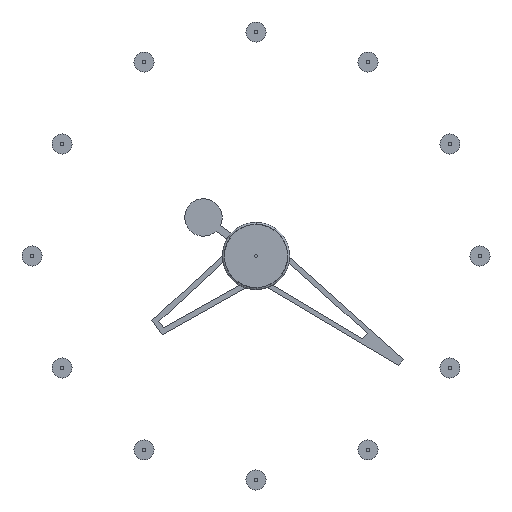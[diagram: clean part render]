
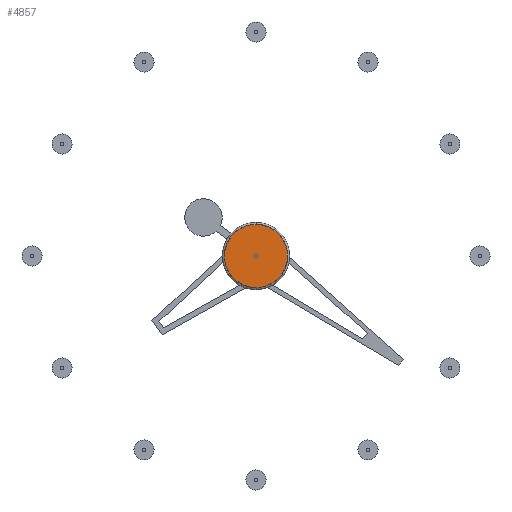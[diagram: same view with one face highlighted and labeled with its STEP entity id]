
A CAD part, front view. The second image highlights one B-rep face of the part: STEP entity #4857.
In plain terms, the highlighted planar face has unit normal (0, -1, 0).
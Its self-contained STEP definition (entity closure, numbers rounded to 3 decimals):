
#76 = ORIENTED_EDGE ( 'NONE', *, *, #5353, .T. ) ;
#116 = CARTESIAN_POINT ( 'NONE',  ( 47.5, -24., 0. ) ) ;
#131 = AXIS2_PLACEMENT_3D ( 'NONE', #3760, #3231, #224 ) ;
#149 = ORIENTED_EDGE ( 'NONE', *, *, #380, .T. ) ;
#224 = DIRECTION ( 'NONE',  ( 0., 0., 1. ) ) ;
#380 = EDGE_CURVE ( 'NONE', #2608, #2770, #3913, .T. ) ;
#650 = DIRECTION ( 'NONE',  ( 0., -1., 0. ) ) ;
#805 = EDGE_CURVE ( 'NONE', #6078, #4408, #911, .T. ) ;
#865 = DIRECTION ( 'NONE',  ( 0., 0., 1. ) ) ;
#911 = CIRCLE ( 'NONE', #3281, 2. ) ;
#1035 = CARTESIAN_POINT ( 'NONE',  ( 47.5, -24., 47.25 ) ) ;
#1050 = CIRCLE ( 'NONE', #1378, 2. ) ;
#1153 = DIRECTION ( 'NONE',  ( 0., 0., 1. ) ) ;
#1254 = AXIS2_PLACEMENT_3D ( 'NONE', #5879, #5402, #5376 ) ;
#1351 = PLANE ( 'NONE',  #1254 ) ;
#1378 = AXIS2_PLACEMENT_3D ( 'NONE', #5943, #3874, #865 ) ;
#1430 = EDGE_CURVE ( 'NONE', #2770, #2608, #2805, .T. ) ;
#1689 = DIRECTION ( 'NONE',  ( 0., 0., 1. ) ) ;
#2184 = DIRECTION ( 'NONE',  ( 0., 1., 0. ) ) ;
#2548 = FACE_BOUND ( 'NONE', #4875, .T. ) ;
#2608 = VERTEX_POINT ( 'NONE', #1035 ) ;
#2616 = EDGE_LOOP ( 'NONE', ( #149, #4719 ) ) ;
#2770 = VERTEX_POINT ( 'NONE', #4200 ) ;
#2805 = CIRCLE ( 'NONE', #131, 47.25 ) ;
#3000 = CARTESIAN_POINT ( 'NONE',  ( 47.5, -24., 2. ) ) ;
#3231 = DIRECTION ( 'NONE',  ( 0., -1., 0. ) ) ;
#3264 = ORIENTED_EDGE ( 'NONE', *, *, #805, .T. ) ;
#3281 = AXIS2_PLACEMENT_3D ( 'NONE', #6176, #2184, #1689 ) ;
#3760 = CARTESIAN_POINT ( 'NONE',  ( 47.5, -24., 0. ) ) ;
#3874 = DIRECTION ( 'NONE',  ( 0., 1., 0. ) ) ;
#3913 = CIRCLE ( 'NONE', #5998, 47.25 ) ;
#4121 = FACE_OUTER_BOUND ( 'NONE', #2616, .T. ) ;
#4200 = CARTESIAN_POINT ( 'NONE',  ( 47.5, -24., -47.25 ) ) ;
#4408 = VERTEX_POINT ( 'NONE', #3000 ) ;
#4512 = CARTESIAN_POINT ( 'NONE',  ( 47.5, -24., -2. ) ) ;
#4719 = ORIENTED_EDGE ( 'NONE', *, *, #1430, .T. ) ;
#4857 = ADVANCED_FACE ( 'NONE', ( #2548, #4121 ), #1351, .F. ) ;
#4875 = EDGE_LOOP ( 'NONE', ( #76, #3264 ) ) ;
#5353 = EDGE_CURVE ( 'NONE', #4408, #6078, #1050, .T. ) ;
#5376 = DIRECTION ( 'NONE',  ( 0., 0., 1. ) ) ;
#5402 = DIRECTION ( 'NONE',  ( 0., 1., 0. ) ) ;
#5879 = CARTESIAN_POINT ( 'NONE',  ( 0., -24., 0. ) ) ;
#5943 = CARTESIAN_POINT ( 'NONE',  ( 47.5, -24., 0. ) ) ;
#5998 = AXIS2_PLACEMENT_3D ( 'NONE', #116, #650, #1153 ) ;
#6078 = VERTEX_POINT ( 'NONE', #4512 ) ;
#6176 = CARTESIAN_POINT ( 'NONE',  ( 47.5, -24., 0. ) ) ;
